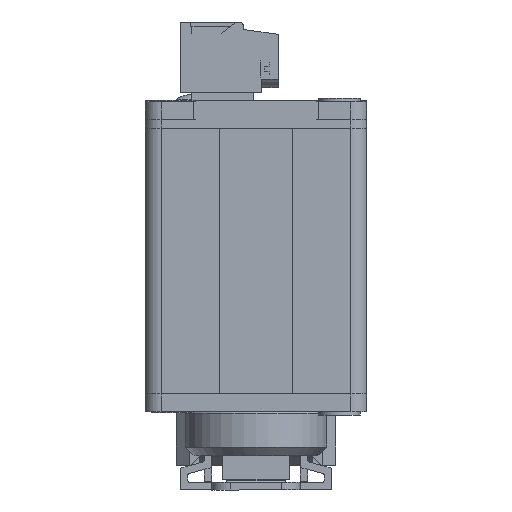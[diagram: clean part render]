
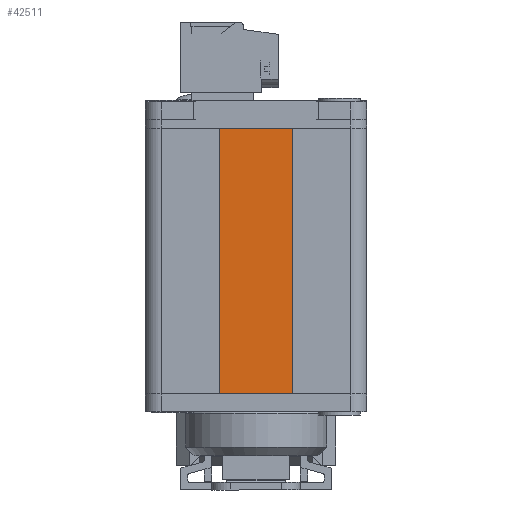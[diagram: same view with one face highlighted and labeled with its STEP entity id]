
A CAD part, front view. The second image highlights one B-rep face of the part: STEP entity #42511.
In plain terms, the highlighted planar face has unit normal (0, -1, 0).
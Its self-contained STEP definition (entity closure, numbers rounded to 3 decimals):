
#2711 = ORIENTED_EDGE ( 'NONE', *, *, #15217, .T. ) ;
#4249 = EDGE_CURVE ( 'NONE', #16477, #33000, #5788, .T. ) ;
#4401 = CARTESIAN_POINT ( 'NONE',  ( 16.667, 0.25, 0. ) ) ;
#5788 = LINE ( 'NONE', #56381, #61994 ) ;
#6706 = DIRECTION ( 'NONE',  ( 0., -1., 0. ) ) ;
#8268 = AXIS2_PLACEMENT_3D ( 'NONE', #12184, #6706, #67589 ) ;
#9167 = DIRECTION ( 'NONE',  ( 1., 0., 0. ) ) ;
#9887 = CARTESIAN_POINT ( 'NONE',  ( 8.333, 0.25, 0. ) ) ;
#12184 = CARTESIAN_POINT ( 'NONE',  ( 8.333, 0.25, -38.337 ) ) ;
#12870 = ORIENTED_EDGE ( 'NONE', *, *, #20032, .F. ) ;
#13301 = LINE ( 'NONE', #25037, #35312 ) ;
#15217 = EDGE_CURVE ( 'NONE', #55104, #50415, #21132, .T. ) ;
#16477 = VERTEX_POINT ( 'NONE', #42443 ) ;
#20032 = EDGE_CURVE ( 'NONE', #33000, #50415, #66363, .T. ) ;
#21132 = LINE ( 'NONE', #30712, #21600 ) ;
#21600 = VECTOR ( 'NONE', #48287, 1000. ) ;
#25037 = CARTESIAN_POINT ( 'NONE',  ( 8.333, 0.25, -30. ) ) ;
#28159 = DIRECTION ( 'NONE',  ( 0., 0., 1. ) ) ;
#30712 = CARTESIAN_POINT ( 'NONE',  ( 16.667, 0.25, -38.337 ) ) ;
#33000 = VERTEX_POINT ( 'NONE', #34053 ) ;
#34053 = CARTESIAN_POINT ( 'NONE',  ( 8.333, 0.25, 0. ) ) ;
#34584 = PLANE ( 'NONE',  #8268 ) ;
#35312 = VECTOR ( 'NONE', #64279, 1000. ) ;
#39764 = EDGE_LOOP ( 'NONE', ( #72539, #2711, #12870, #45824 ) ) ;
#40690 = EDGE_CURVE ( 'NONE', #16477, #55104, #13301, .T. ) ;
#40792 = FACE_OUTER_BOUND ( 'NONE', #39764, .T. ) ;
#42443 = CARTESIAN_POINT ( 'NONE',  ( 8.333, 0.25, -30. ) ) ;
#42489 = CARTESIAN_POINT ( 'NONE',  ( 16.667, 0.25, -30. ) ) ;
#42511 = ADVANCED_FACE ( 'NONE', ( #40792 ), #34584, .T. ) ;
#45824 = ORIENTED_EDGE ( 'NONE', *, *, #4249, .F. ) ;
#47000 = VECTOR ( 'NONE', #9167, 1000. ) ;
#48287 = DIRECTION ( 'NONE',  ( 0., 0., 1. ) ) ;
#50415 = VERTEX_POINT ( 'NONE', #4401 ) ;
#55104 = VERTEX_POINT ( 'NONE', #42489 ) ;
#56381 = CARTESIAN_POINT ( 'NONE',  ( 8.333, 0.25, -38.337 ) ) ;
#61994 = VECTOR ( 'NONE', #28159, 1000. ) ;
#64279 = DIRECTION ( 'NONE',  ( 1., 0., 0. ) ) ;
#66363 = LINE ( 'NONE', #9887, #47000 ) ;
#67589 = DIRECTION ( 'NONE',  ( 1., 0., 0. ) ) ;
#72539 = ORIENTED_EDGE ( 'NONE', *, *, #40690, .T. ) ;
